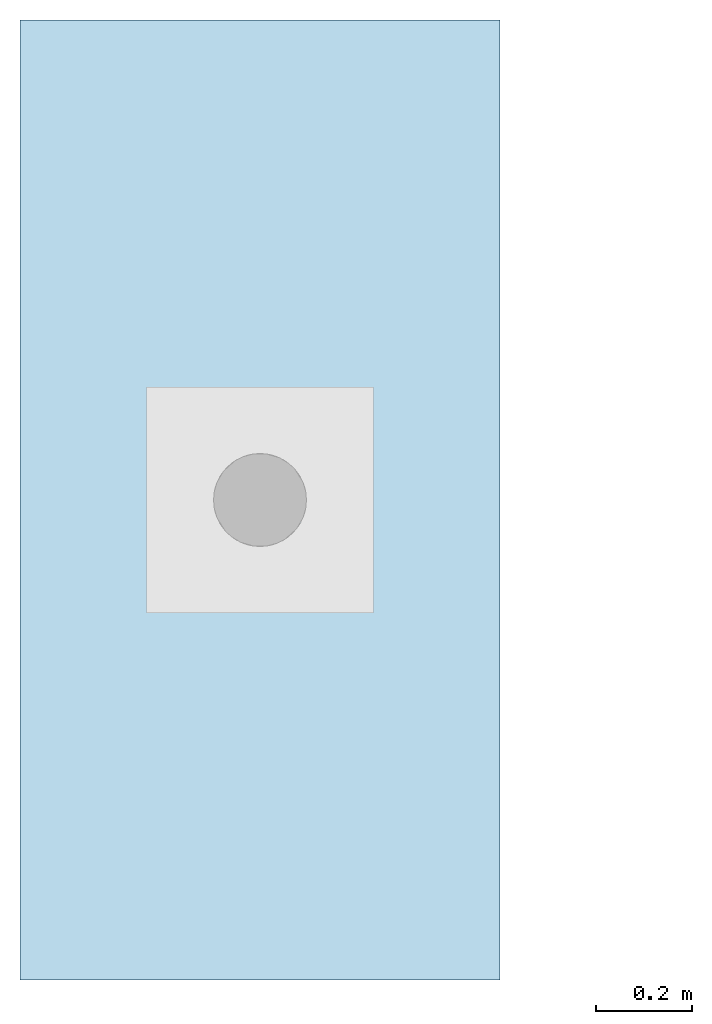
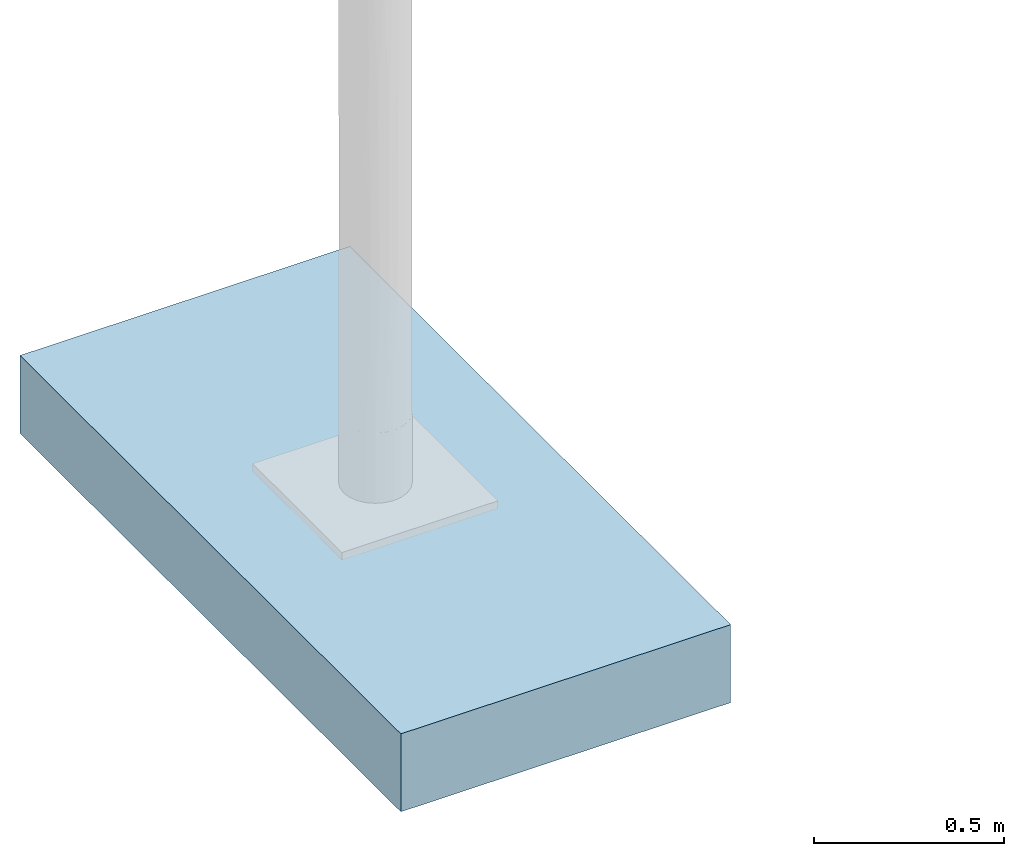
# One storey, incomplete: 1 slab.
"""IFC4 building model written with IfcOpenShell, lengths in metres."""

from ifc_helpers import new_model, entity, si_unit, converted_unit, direction, frame, frame_2d, origin, place, context, subcontext, project, spatial, rectangle, extrude, type_object, element, save


model = new_model("IFC4")

# Units and contexts
model_context = context("Model", 3, precision=1e-05, world=origin(), true_north=direction((6.123031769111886e-17, 1.0)))
body_context = subcontext(model_context, "Body", "Model", "MODEL_VIEW")
ifc_project = project(units=[si_unit("LENGTHUNIT", "METRE"), converted_unit("PLANEANGLEUNIT", "DEGREE", entity("IfcPlaneAngleMeasure", 0.017453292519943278), si_unit("PLANEANGLEUNIT", "RADIAN"), dimensions=[0, 0, 0, 0, 0, 0, 0]), si_unit("AREAUNIT", "SQUARE_METRE")], contexts=[model_context])

# Site, building, storey
site_placement = place(None, origin())
site = spatial("IfcSite", under=ifc_project, at=site_placement, Name="Default", CompositionType="ELEMENT")
building_placement = place(site_placement, origin())
building = spatial("IfcBuilding", under=site, at=building_placement, CompositionType="ELEMENT")
storey_placement = place(building_placement, origin())
storey = spatial("IfcBuildingStorey", under=building, at=storey_placement, Name="Ebene 0", CompositionType="ELEMENT", Elevation=0.0)

# Slab
slab_type = type_object("IfcSlabType", Name="DB_ZIM_Fundament:DB_ZIM_Fundament", PredefinedType="BASESLAB")
slab_placement = place(storey_placement, origin())
element("IfcSlab", 1, at=slab_placement, inside=storey, type_object=slab_type, Name="DB_ZIM_Fundament:DB_ZIM_Fundament", ObjectType="DB_ZIM_Fundament:DB_ZIM_Fundament", PredefinedType="BASESLAB", context=body_context, shape_type="SweptSolid", body=[
    extrude(rectangle(XDim=0.9999999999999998, YDim=2.0, at=frame_2d((0.09999999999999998, 0.0), x_axis=(1.0, 0.0))), frame((-0.09999999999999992, 0.0, -0.5001999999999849)), (0.0, 0.0, 1.0), 0.25),
])

save(model, "model.ifc")
